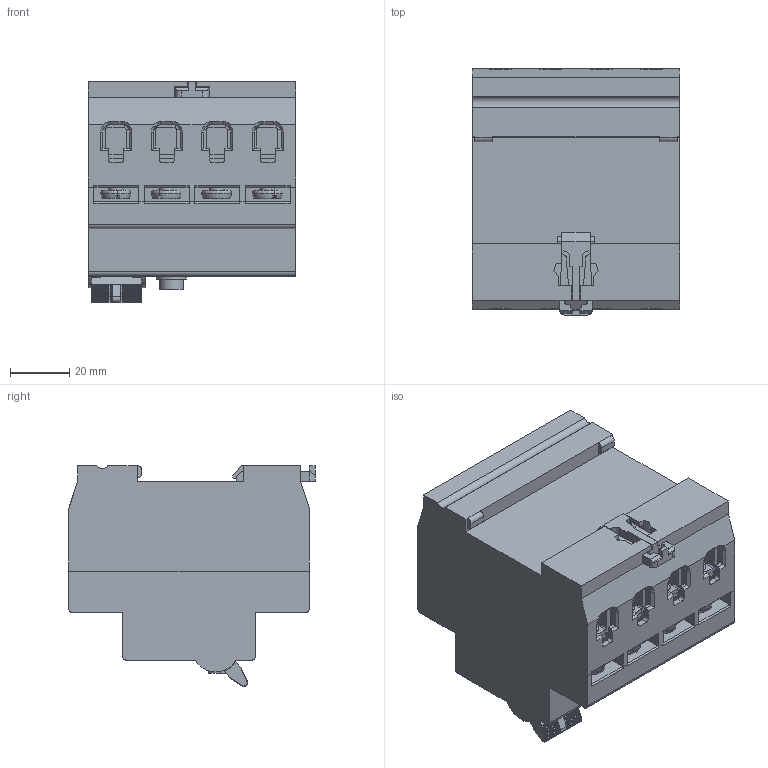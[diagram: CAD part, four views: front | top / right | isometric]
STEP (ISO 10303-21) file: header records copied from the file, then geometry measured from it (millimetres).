
FILE_DESCRIPTION (( 'STEP AP214' ), '1' );
FILE_NAME ('4騶薩1-63.STEP', '2014-06-10T09:17:51', ( '1' ), ( 'keaz' ), 'SwSTEP 2.0', 'SolidWorks 2007', '' );
FILE_SCHEMA (( 'AUTOMOTIVE_DESIGN' ));
Length unit declared in the file: millimetre
Products named in the file (7): êíîïêà_Ïî óìîë÷àíèþ; 妈眚_闷仁.758151.057; Ðó÷êà_Ïî óìîë÷àíèþ; çàù¸ëêà_ñòàðàÿ_äëÿ ñáîðêè; 暑腩潢郷闷仁.745418.015; 4騶薩1-63; Êîðïóñ 4õ_Ïî óìîë÷àíèþ
Assembly tree (20 placements, depth 2):
  4騶薩1-63
    妈眚_闷仁.758151.057  x8
    Êîðïóñ 4õ_Ïî óìîë÷àíèþ
    çàù¸ëêà_ñòàðàÿ_äëÿ ñáîðêè
    暑腩潢郷闷仁.745418.015  x8
    Ðó÷êà_Ïî óìîë÷àíèþ
    êíîïêà_Ïî óìîë÷àíèþ
Bounding box: 70 x 83 x 74.33 mm (x, y, z)
Volume: 267009.3 mm3; surface area: 61640.7 mm2
Topology: 20 solids, 20 shells, 2011 faces, 5451 edges, 3457 vertices
Faces by surface type: plane 1443, cylinder 500, torus 32, bspline 20, cone 16
Entity records: 30268 total; most frequent: CARTESIAN_POINT 6275, ORIENTED_EDGE 5078, DIRECTION 4920, EDGE_CURVE 2539, VECTOR 1720, LINE 1720, VERTEX_POINT 1651, AXIS2_PLACEMENT_3D 1600
